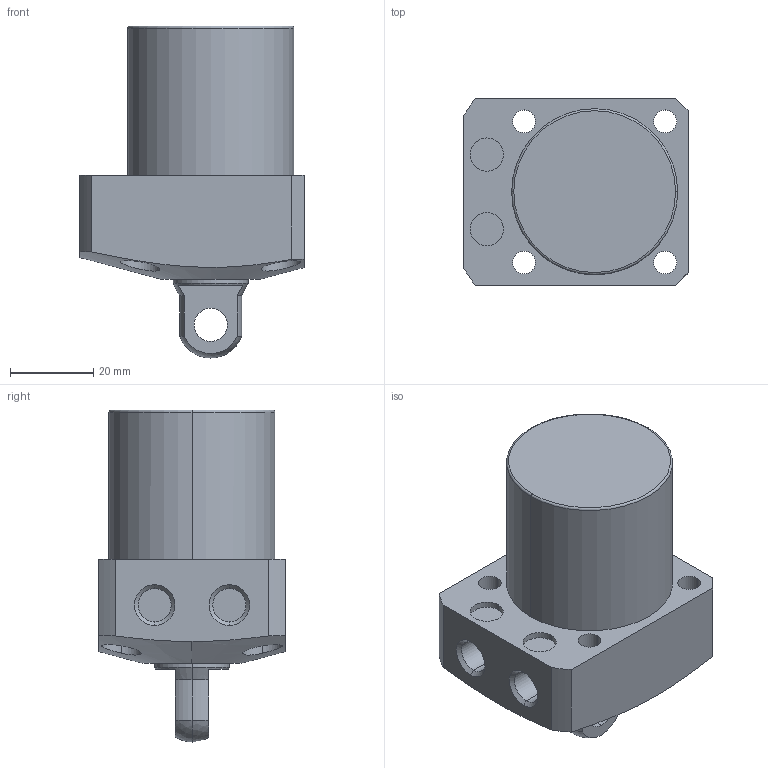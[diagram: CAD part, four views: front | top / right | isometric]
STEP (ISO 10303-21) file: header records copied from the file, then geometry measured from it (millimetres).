
FILE_DESCRIPTION (( 'STEP AP203' ), '1' );
FILE_NAME ('CLL-0400-CP-25.STEP', '2017-05-09T06:30:43', ( '' ), ( '' ), 'SwSTEP 2.0', 'SolidWorks 2015', '' );
FILE_SCHEMA (( 'CONFIG_CONTROL_DESIGN' ));
Length unit declared in the file: millimetre
Products named in the file (1): CLL-0400-CP-25
Bounding box: 54 x 45 x 80 mm (x, y, z)
Volume: 97282.4 mm3; surface area: 16452.9 mm2
Topology: 1 solids, 1 shells, 68 faces, 159 edges, 103 vertices
Faces by surface type: cylinder 35, plane 21, cone 8, sphere 2, torus 2
Entity records: 2379 total; most frequent: CARTESIAN_POINT 682, DIRECTION 357, ORIENTED_EDGE 318, EDGE_CURVE 159, AXIS2_PLACEMENT_3D 149, VERTEX_POINT 103, EDGE_LOOP 88, CIRCLE 80
